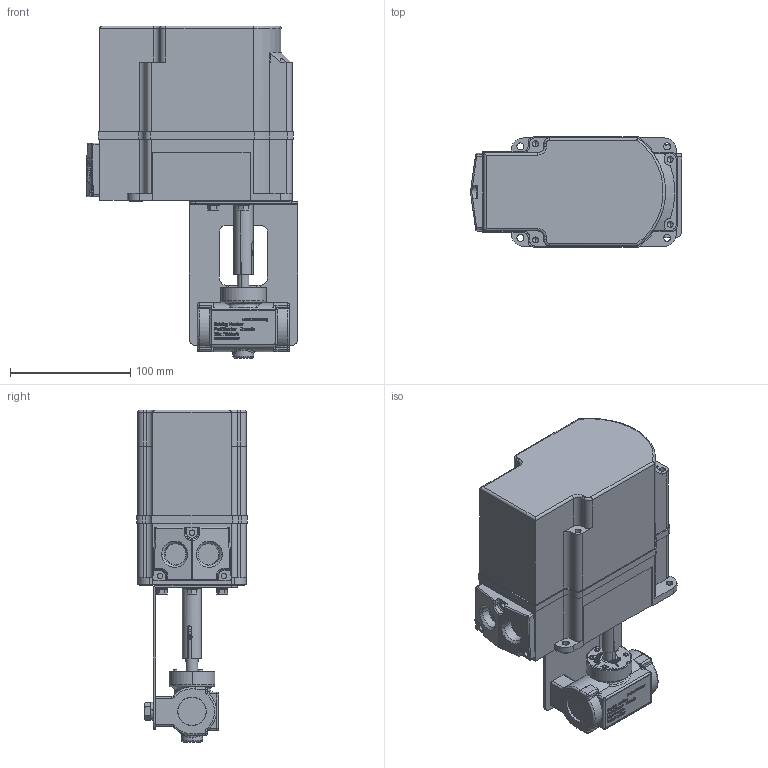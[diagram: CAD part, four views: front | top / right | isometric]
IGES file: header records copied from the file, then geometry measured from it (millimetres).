
Global section: file name: No Iges File Name specified; native system: AutoDesk Inventor R12.0; preprocessor: AutoDesk Inventor Iges Exporter R12.0; date: 20110328.092006; units: millimetre
Bounding box: 175.49 x 92 x 276 mm (x, y, z)
Volume: 2015361.2 mm3; surface area: 158584.2 mm2
Topology: 1 solids, 13 shells, 2803 faces, 7504 edges, 4897 vertices
Faces by surface type: plane 1477, bspline 961, cylinder 176, revolution 91, cone 47, torus 41, sphere 10
Full cylindrical faces by diameter (mm): 9.2 x3, 14.8 x2
